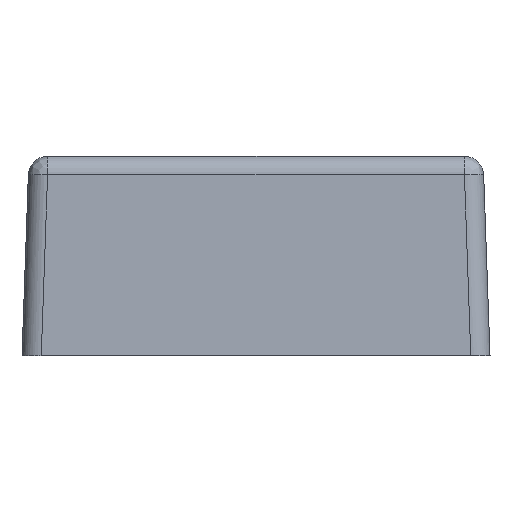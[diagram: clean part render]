
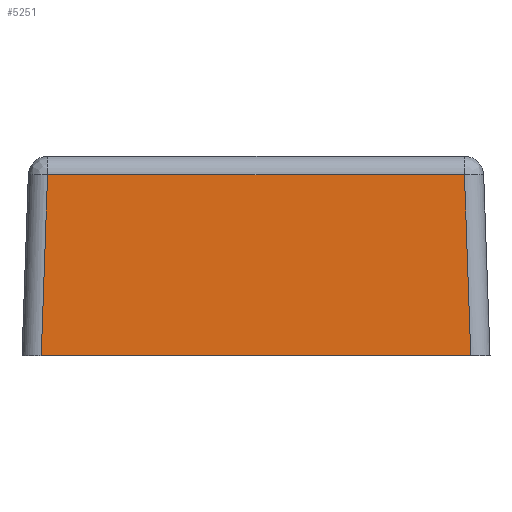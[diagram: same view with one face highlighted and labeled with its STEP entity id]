
A CAD part, left-side view. The second image highlights one B-rep face of the part: STEP entity #5251.
In plain terms, the highlighted planar face has unit normal (-0.999, 0, 0.035).
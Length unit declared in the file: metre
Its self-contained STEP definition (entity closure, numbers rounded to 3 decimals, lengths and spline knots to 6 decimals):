
#1416 = DIRECTION ( 'NONE',  ( -0.035, 0.035, -0.999 ) ) ;
#1621 = LINE ( 'NONE', #24018, #47920 ) ;
#2473 = EDGE_CURVE ( 'NONE', #16110, #54354, #55202, .T. ) ;
#5251 = ADVANCED_FACE ( 'NONE', ( #52878 ), #60825, .T. ) ;
#6723 = CARTESIAN_POINT ( 'NONE',  ( -0.034, -0.0085, 0. ) ) ;
#10071 = VERTEX_POINT ( 'NONE', #44048 ) ;
#12766 = DIRECTION ( 'NONE',  ( 0.035, 0., 0.999 ) ) ;
#15496 = DIRECTION ( 'NONE',  ( 0.035, 0.035, 0.999 ) ) ;
#16110 = VERTEX_POINT ( 'NONE', #45612 ) ;
#21157 = LINE ( 'NONE', #51443, #37190 ) ;
#21689 = EDGE_CURVE ( 'NONE', #16110, #47552, #1621, .T. ) ;
#23066 = VECTOR ( 'NONE', #1416, 1. ) ;
#24018 = CARTESIAN_POINT ( 'NONE',  ( -0.03377, 0., 0.006574 ) ) ;
#24172 = ORIENTED_EDGE ( 'NONE', *, *, #71965, .T. ) ;
#25379 = EDGE_LOOP ( 'NONE', ( #49092, #52626, #60103, #24172 ) ) ;
#28290 = CARTESIAN_POINT ( 'NONE',  ( -0.034, 0.0078, 0. ) ) ;
#29829 = EDGE_CURVE ( 'NONE', #54354, #10071, #62084, .T. ) ;
#31575 = DIRECTION ( 'NONE',  ( 0., -1., 0. ) ) ;
#35008 = AXIS2_PLACEMENT_3D ( 'NONE', #6723, #48992, #12766 ) ;
#37190 = VECTOR ( 'NONE', #15496, 1. ) ;
#44048 = CARTESIAN_POINT ( 'NONE',  ( -0.034, -0.0078, 0. ) ) ;
#45612 = CARTESIAN_POINT ( 'NONE',  ( -0.03377, 0.007571, 0.006574 ) ) ;
#47552 = VERTEX_POINT ( 'NONE', #72163 ) ;
#47920 = VECTOR ( 'NONE', #66280, 1. ) ;
#48992 = DIRECTION ( 'NONE',  ( -0.999, 0., 0.035 ) ) ;
#49092 = ORIENTED_EDGE ( 'NONE', *, *, #21689, .F. ) ;
#51443 = CARTESIAN_POINT ( 'NONE',  ( -0.034, -0.0078, 0. ) ) ;
#52626 = ORIENTED_EDGE ( 'NONE', *, *, #2473, .T. ) ;
#52878 = FACE_OUTER_BOUND ( 'NONE', #25379, .T. ) ;
#54354 = VERTEX_POINT ( 'NONE', #28290 ) ;
#55202 = LINE ( 'NONE', #67660, #23066 ) ;
#60103 = ORIENTED_EDGE ( 'NONE', *, *, #29829, .T. ) ;
#60825 = PLANE ( 'NONE',  #35008 ) ;
#62084 = LINE ( 'NONE', #73595, #78145 ) ;
#66280 = DIRECTION ( 'NONE',  ( 0., -1., 0. ) ) ;
#67660 = CARTESIAN_POINT ( 'NONE',  ( -0.03377, 0.007571, 0.006574 ) ) ;
#71965 = EDGE_CURVE ( 'NONE', #10071, #47552, #21157, .T. ) ;
#72163 = CARTESIAN_POINT ( 'NONE',  ( -0.03377, -0.007571, 0.006574 ) ) ;
#73595 = CARTESIAN_POINT ( 'NONE',  ( -0.034, -0.0085, 0. ) ) ;
#78145 = VECTOR ( 'NONE', #31575, 1. ) ;
